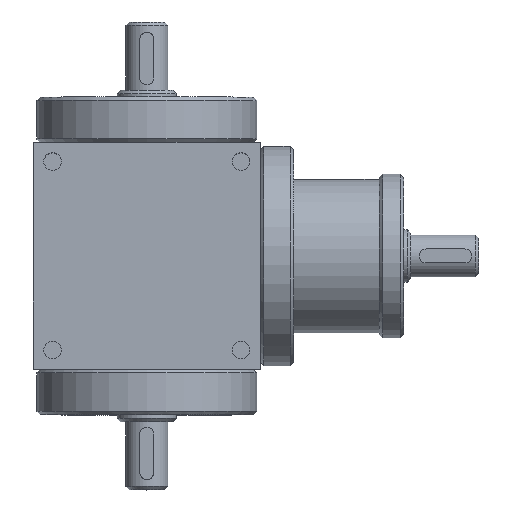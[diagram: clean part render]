
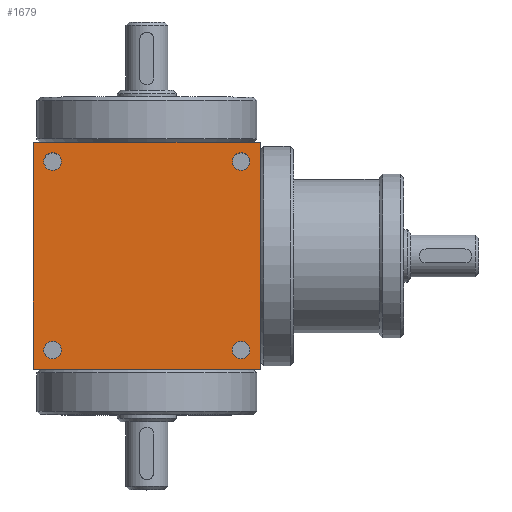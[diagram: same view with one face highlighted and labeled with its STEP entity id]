
A CAD part, top view. The second image highlights one B-rep face of the part: STEP entity #1679.
In plain terms, the highlighted planar face has unit normal (0, 0, 1).
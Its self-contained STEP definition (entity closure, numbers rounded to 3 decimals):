
#1679=ADVANCED_FACE('',(#2371,#2372,#2373,#2374,#2375),#2376,.T.);
#2371=FACE_BOUND('',#3392,.T.);
#2372=FACE_BOUND('',#3393,.T.);
#2373=FACE_BOUND('',#3394,.T.);
#2374=FACE_BOUND('',#3395,.T.);
#2375=FACE_OUTER_BOUND('',#3396,.T.);
#2376=PLANE('',#3397);
#3392=EDGE_LOOP('',(#4835));
#3393=EDGE_LOOP('',(#4836));
#3394=EDGE_LOOP('',(#4837));
#3395=EDGE_LOOP('',(#4838));
#3396=EDGE_LOOP('',(#4839,#4840,#4841,#4842));
#3397=AXIS2_PLACEMENT_3D('',#4843,#4844,#4845);
#4835=ORIENTED_EDGE('',*,*,#6411,.F.);
#4836=ORIENTED_EDGE('',*,*,#6412,.F.);
#4837=ORIENTED_EDGE('',*,*,#6413,.F.);
#4838=ORIENTED_EDGE('',*,*,#6414,.F.);
#4839=ORIENTED_EDGE('',*,*,#6387,.T.);
#4840=ORIENTED_EDGE('',*,*,#6415,.T.);
#4841=ORIENTED_EDGE('',*,*,#6416,.T.);
#4842=ORIENTED_EDGE('',*,*,#6417,.T.);
#4843=CARTESIAN_POINT('',(-32.5,-32.5,65.0));
#4844=DIRECTION('',(0.0,0.0,1.0));
#4845=DIRECTION('',(1.0,0.0,0.0));
#6387=EDGE_CURVE('',#7108,#7106,#7109,.T.);
#6411=EDGE_CURVE('',#7155,#7155,#7156,.T.);
#6412=EDGE_CURVE('',#7157,#7157,#7158,.T.);
#6413=EDGE_CURVE('',#7159,#7159,#7160,.T.);
#6414=EDGE_CURVE('',#7161,#7161,#7162,.T.);
#6415=EDGE_CURVE('',#7106,#7163,#7164,.T.);
#6416=EDGE_CURVE('',#7163,#7165,#7166,.T.);
#6417=EDGE_CURVE('',#7165,#7108,#7167,.T.);
#7106=VERTEX_POINT('',#8367);
#7108=VERTEX_POINT('',#8370);
#7109=LINE('',#8371,#8372);
#7155=VERTEX_POINT('',#8419);
#7156=CIRCLE('',#8420,2.5);
#7157=VERTEX_POINT('',#8421);
#7158=CIRCLE('',#8422,2.5);
#7159=VERTEX_POINT('',#8423);
#7160=CIRCLE('',#8424,2.5);
#7161=VERTEX_POINT('',#8425);
#7162=CIRCLE('',#8426,2.5);
#7163=VERTEX_POINT('',#8427);
#7164=LINE('',#8428,#8429);
#7165=VERTEX_POINT('',#8430);
#7166=LINE('',#8431,#8432);
#7167=LINE('',#8433,#8434);
#8367=CARTESIAN_POINT('',(-32.5,-32.5,65.0));
#8370=CARTESIAN_POINT('',(-32.5,32.5,65.0));
#8371=CARTESIAN_POINT('',(-32.5,32.5,65.0));
#8372=VECTOR('',#9802,1.0);
#8419=CARTESIAN_POINT('',(27.0,-24.5,65.0));
#8420=AXIS2_PLACEMENT_3D('',#9870,#9871,#9872);
#8421=CARTESIAN_POINT('',(27.0,29.5,65.0));
#8422=AXIS2_PLACEMENT_3D('',#9873,#9874,#9875);
#8423=CARTESIAN_POINT('',(-27.0,-24.5,65.0));
#8424=AXIS2_PLACEMENT_3D('',#9876,#9877,#9878);
#8425=CARTESIAN_POINT('',(-27.0,29.5,65.0));
#8426=AXIS2_PLACEMENT_3D('',#9879,#9880,#9881);
#8427=CARTESIAN_POINT('',(32.5,-32.5,65.0));
#8428=CARTESIAN_POINT('',(-32.5,-32.5,65.0));
#8429=VECTOR('',#9882,1.0);
#8430=CARTESIAN_POINT('',(32.5,32.5,65.0));
#8431=CARTESIAN_POINT('',(32.5,-32.5,65.0));
#8432=VECTOR('',#9883,1.0);
#8433=CARTESIAN_POINT('',(32.5,32.5,65.0));
#8434=VECTOR('',#9884,1.0);
#9802=DIRECTION('',(0.0,-1.0,0.0));
#9870=CARTESIAN_POINT('',(27.0,-27.0,65.0));
#9871=DIRECTION('',(0.0,0.,1.0));
#9872=DIRECTION('',(0.0,1.0,0.));
#9873=CARTESIAN_POINT('',(27.0,27.0,65.0));
#9874=DIRECTION('',(0.0,0.,1.0));
#9875=DIRECTION('',(0.0,1.0,0.));
#9876=CARTESIAN_POINT('',(-27.0,-27.0,65.0));
#9877=DIRECTION('',(0.0,0.,1.0));
#9878=DIRECTION('',(0.0,1.0,0.));
#9879=CARTESIAN_POINT('',(-27.0,27.0,65.0));
#9880=DIRECTION('',(0.0,0.,1.0));
#9881=DIRECTION('',(0.0,1.0,0.));
#9882=DIRECTION('',(1.0,0.0,0.0));
#9883=DIRECTION('',(0.0,1.0,0.0));
#9884=DIRECTION('',(-1.0,0.0,0.0));
